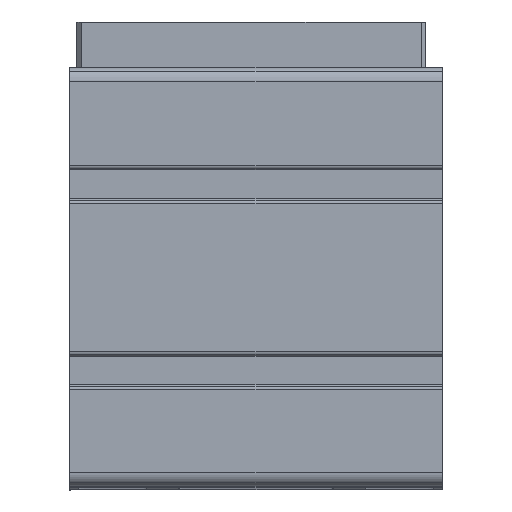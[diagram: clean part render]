
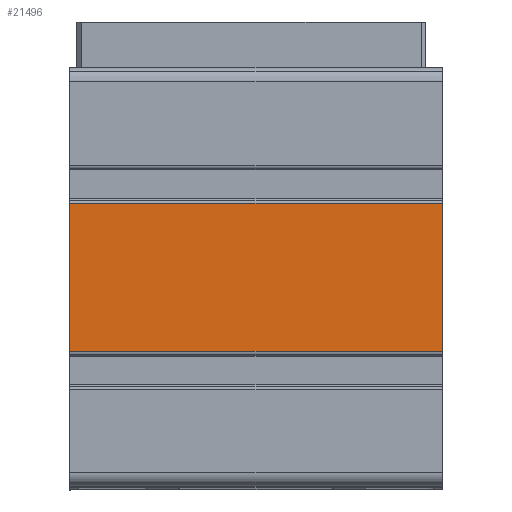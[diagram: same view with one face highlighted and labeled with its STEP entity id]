
A CAD part, top view. The second image highlights one B-rep face of the part: STEP entity #21496.
In plain terms, the highlighted planar face has unit normal (0, 0, 1).
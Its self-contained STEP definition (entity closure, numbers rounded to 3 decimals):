
#1303 = ORIENTED_EDGE ( 'NONE', *, *, #16783, .F. ) ;
#1337 = CARTESIAN_POINT ( 'NONE',  ( 80., 90., 290. ) ) ;
#1360 = DIRECTION ( 'NONE',  ( 0., -1., 0. ) ) ;
#1659 = PLANE ( 'NONE',  #3874 ) ;
#2272 = VECTOR ( 'NONE', #3909, 1000. ) ;
#3003 = DIRECTION ( 'NONE',  ( 0., 0., 1. ) ) ;
#3874 = AXIS2_PLACEMENT_3D ( 'NONE', #1337, #3003, #13286 ) ;
#3909 = DIRECTION ( 'NONE',  ( -1., 0., 0. ) ) ;
#4287 = ORIENTED_EDGE ( 'NONE', *, *, #20813, .T. ) ;
#6193 = CARTESIAN_POINT ( 'NONE',  ( 80., 60.9, 290. ) ) ;
#6229 = EDGE_CURVE ( 'NONE', #9668, #14184, #16766, .T. ) ;
#6395 = FACE_OUTER_BOUND ( 'NONE', #11666, .T. ) ;
#6419 = DIRECTION ( 'NONE',  ( 0., 1., 0. ) ) ;
#6545 = CARTESIAN_POINT ( 'NONE',  ( 40., 60.9, 290. ) ) ;
#8791 = VECTOR ( 'NONE', #6419, 1000. ) ;
#9427 = CARTESIAN_POINT ( 'NONE',  ( 0., 29.1, 290. ) ) ;
#9668 = VERTEX_POINT ( 'NONE', #19150 ) ;
#9959 = VERTEX_POINT ( 'NONE', #19932 ) ;
#10786 = VECTOR ( 'NONE', #1360, 1000. ) ;
#11666 = EDGE_LOOP ( 'NONE', ( #1303, #4287, #13566, #16043 ) ) ;
#13198 = LINE ( 'NONE', #16968, #8791 ) ;
#13286 = DIRECTION ( 'NONE',  ( 0., 1., 0. ) ) ;
#13420 = DIRECTION ( 'NONE',  ( 1., 0., 0. ) ) ;
#13566 = ORIENTED_EDGE ( 'NONE', *, *, #6229, .F. ) ;
#14184 = VERTEX_POINT ( 'NONE', #6193 ) ;
#16043 = ORIENTED_EDGE ( 'NONE', *, *, #21894, .T. ) ;
#16343 = VERTEX_POINT ( 'NONE', #9427 ) ;
#16766 = LINE ( 'NONE', #6545, #17010 ) ;
#16783 = EDGE_CURVE ( 'NONE', #9959, #16343, #17558, .T. ) ;
#16968 = CARTESIAN_POINT ( 'NONE',  ( 80., 0., 290. ) ) ;
#17010 = VECTOR ( 'NONE', #13420, 1000. ) ;
#17558 = LINE ( 'NONE', #21363, #2272 ) ;
#19011 = LINE ( 'NONE', #20471, #10786 ) ;
#19150 = CARTESIAN_POINT ( 'NONE',  ( 0., 60.9, 290. ) ) ;
#19932 = CARTESIAN_POINT ( 'NONE',  ( 80., 29.1, 290. ) ) ;
#20471 = CARTESIAN_POINT ( 'NONE',  ( 0., 0., 290. ) ) ;
#20813 = EDGE_CURVE ( 'NONE', #9959, #14184, #13198, .T. ) ;
#21363 = CARTESIAN_POINT ( 'NONE',  ( 40., 29.1, 290. ) ) ;
#21496 = ADVANCED_FACE ( 'NONE', ( #6395 ), #1659, .T. ) ;
#21894 = EDGE_CURVE ( 'NONE', #9668, #16343, #19011, .T. ) ;
